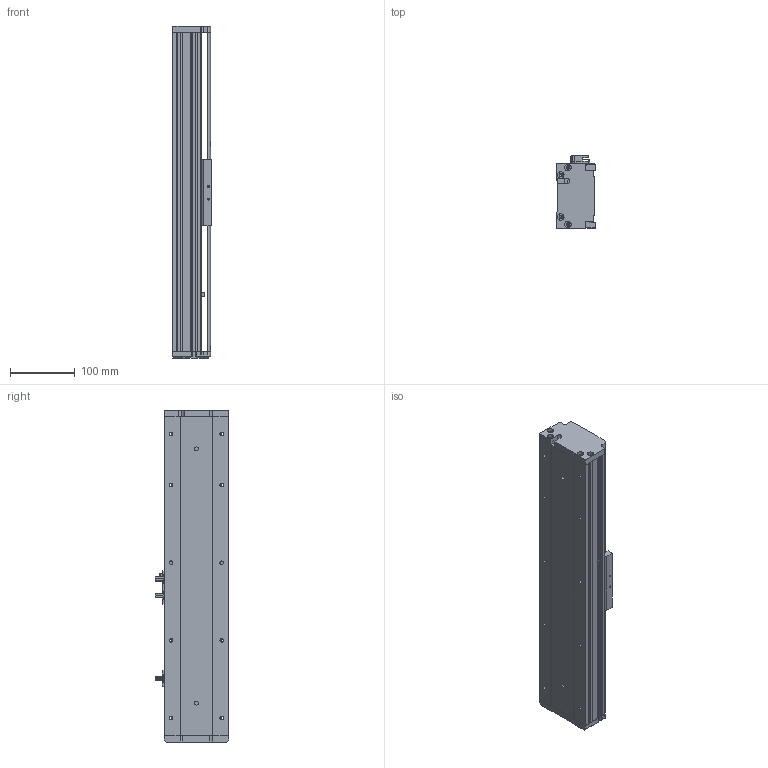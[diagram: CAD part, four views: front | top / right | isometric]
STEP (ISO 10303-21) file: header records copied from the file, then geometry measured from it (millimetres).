
FILE_DESCRIPTION (( 'STEP AP214' ), '1' );
FILE_NAME ('KSD100S-S150-M-CM.STEP', '2019-08-29T08:23:20', ( '微软用户' ), ( '微软中国' ), 'SwSTEP 2.0', 'SolidWorks 2014', '' );
FILE_SCHEMA (( 'AUTOMOTIVE_DESIGN' ));
Length unit declared in the file: millimetre
Products named in the file (8): 覜茼え100遵圉猾敕; U倰嫖萇EEㄜSX672; 100宽防尘板丝杆150行程电机内装; 100宽马达安装板-电机内装; 100宽滚珠螺姆安装板半封闭; 100遵傷啣; 100宽底板半封闭丝杆150行程电机内装; KSD100S-S150-M-CM
Assembly tree (9 placements, depth 2):
  KSD100S-S150-M-CM
    100宽底板半封闭丝杆150行程电机内装
    100遵傷啣
    100宽滚珠螺姆安装板半封闭
    100宽马达安装板-电机内装
    100宽防尘板丝杆150行程电机内装
    U倰嫖萇EEㄜSX672  x3
    覜茼え100遵圉猾敕
Bounding box: 60 x 113.7 x 513 mm (x, y, z)
Volume: 1084817.4 mm3; surface area: 391894.7 mm2
Topology: 9 solids, 9 shells, 945 faces, 2676 edges, 1703 vertices
Faces by surface type: plane 432, cylinder 420, cone 93
Entity records: 31662 total; most frequent: CARTESIAN_POINT 6038, DIRECTION 4153, ORIENTED_EDGE 4068, EDGE_CURVE 2034, AXIS2_PLACEMENT_3D 1470, VERTEX_POINT 1327, VECTOR 1213, LINE 1213
